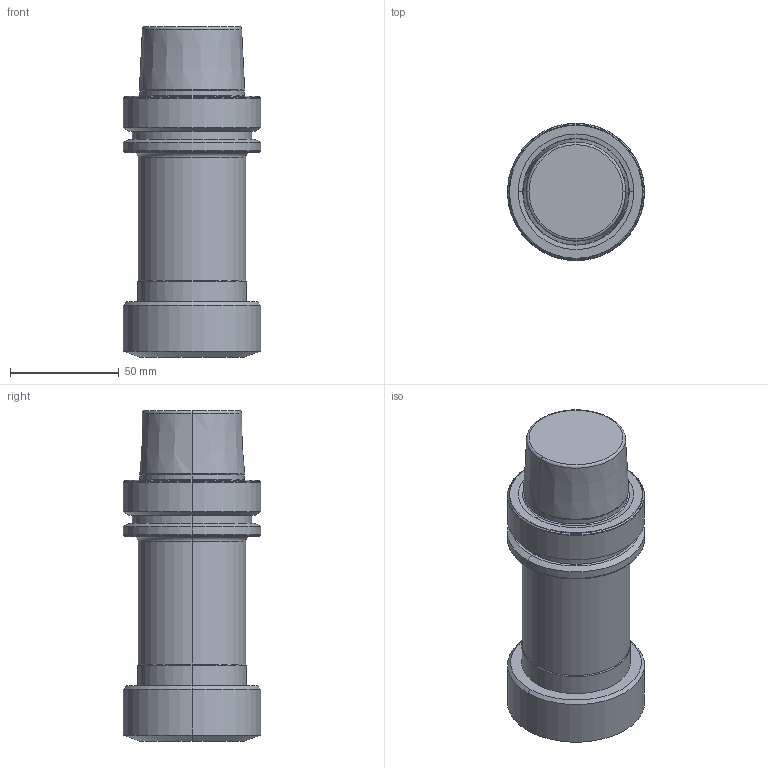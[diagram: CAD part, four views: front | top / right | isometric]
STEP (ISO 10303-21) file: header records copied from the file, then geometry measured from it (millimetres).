
FILE_DESCRIPTION (( 'STEP AP203' ), '1' );
FILE_NAME ('HSK-A 63 ER 40 120 6.3G 20000 SL.STEP', '2019-05-10T06:43:14', ( '' ), ( '' ), 'SwSTEP 2.0', 'SolidWorks 2014', '' );
FILE_SCHEMA (( 'CONFIG_CONTROL_DESIGN' ));
Length unit declared in the file: millimetre
Products named in the file (1): HSK-A 63 ER 40 120 6.3G 20000 SL
Bounding box: 63 x 63 x 151.9 mm (x, y, z)
Volume: 341555.6 mm3; surface area: 33918 mm2
Topology: 1 solids, 1 shells, 55 faces, 108 edges, 60 vertices
Faces by surface type: cone 20, torus 14, cylinder 14, plane 7
Entity records: 1485 total; most frequent: DIRECTION 294, CARTESIAN_POINT 224, ORIENTED_EDGE 216, AXIS2_PLACEMENT_3D 130, EDGE_CURVE 108, CIRCLE 74, EDGE_LOOP 60, VERTEX_POINT 60
